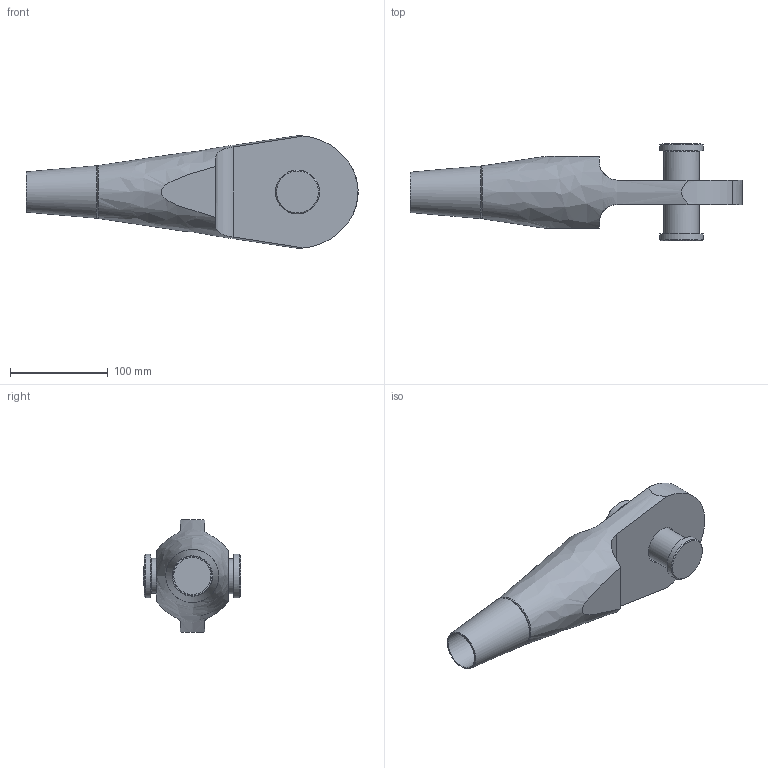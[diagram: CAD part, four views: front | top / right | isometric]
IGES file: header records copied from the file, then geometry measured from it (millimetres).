
Global section: file name: 520-036-OES; native system: Autodesk Inventor 2016; preprocessor: unknown; author: Administrator; date: 20200626.103344; units: centimetre
Bounding box: 339.96 x 99.75 x 115.27 mm (x, y, z)
Volume: 1002923.8 mm3; surface area: 103692.8 mm2
Topology: 2 solids, 3 shells, 49 faces, 119 edges, 81 vertices
Faces by surface type: bspline 49
